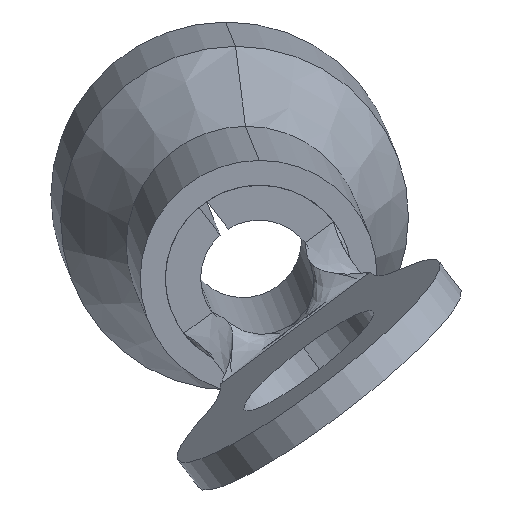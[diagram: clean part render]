
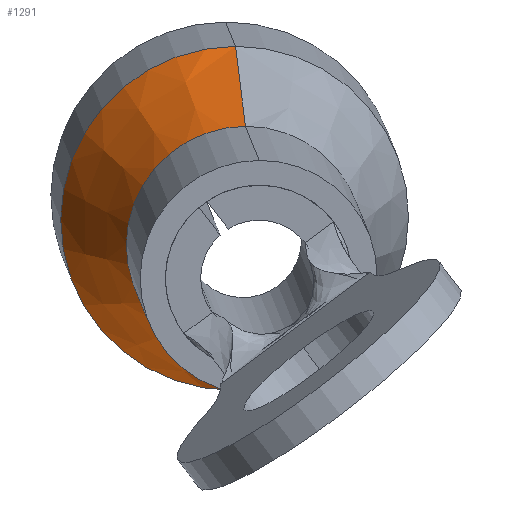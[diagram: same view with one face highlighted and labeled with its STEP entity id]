
A CAD part, front view. The second image highlights one B-rep face of the part: STEP entity #1291.
In plain terms, the highlighted conical face has half-angle 19.537 degrees and reference radius 2.35 mm.
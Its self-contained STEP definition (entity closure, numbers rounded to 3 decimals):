
#62 = ORIENTED_EDGE ( 'NONE', *, *, #351, .T. ) ;
#121 = CARTESIAN_POINT ( 'NONE',  ( 0., 7.3, -3.45 ) ) ;
#179 = EDGE_CURVE ( 'NONE', #1493, #243, #1385, .T. ) ;
#185 = AXIS2_PLACEMENT_3D ( 'NONE', #742, #1602, #868 ) ;
#232 = FACE_OUTER_BOUND ( 'NONE', #1384, .T. ) ;
#243 = VERTEX_POINT ( 'NONE', #484 ) ;
#248 = VECTOR ( 'NONE', #1576, 1000. ) ;
#312 = EDGE_CURVE ( 'NONE', #1493, #863, #999, .T. ) ;
#351 = EDGE_CURVE ( 'NONE', #863, #1097, #584, .T. ) ;
#454 = CARTESIAN_POINT ( 'NONE',  ( 0., 4.2, 0. ) ) ;
#455 = CARTESIAN_POINT ( 'NONE',  ( 0., 4.2, 2.35 ) ) ;
#484 = CARTESIAN_POINT ( 'NONE',  ( 0., 4.2, -2.35 ) ) ;
#525 = CARTESIAN_POINT ( 'NONE',  ( 0., 7.3, 0. ) ) ;
#555 = ORIENTED_EDGE ( 'NONE', *, *, #179, .F. ) ;
#584 = CIRCLE ( 'NONE', #886, 3.45 ) ;
#660 = DIRECTION ( 'NONE',  ( 0., 0., -1. ) ) ;
#677 = AXIS2_PLACEMENT_3D ( 'NONE', #454, #1342, #837 ) ;
#742 = CARTESIAN_POINT ( 'NONE',  ( 0., 4.2, 0. ) ) ;
#807 = DIRECTION ( 'NONE',  ( 0., 0.942, -0.334 ) ) ;
#837 = DIRECTION ( 'NONE',  ( 0., 0., 1. ) ) ;
#863 = VERTEX_POINT ( 'NONE', #1315 ) ;
#868 = DIRECTION ( 'NONE',  ( 0., 0., -1. ) ) ;
#886 = AXIS2_PLACEMENT_3D ( 'NONE', #525, #1409, #660 ) ;
#982 = LINE ( 'NONE', #1304, #1303 ) ;
#999 = LINE ( 'NONE', #455, #248 ) ;
#1097 = VERTEX_POINT ( 'NONE', #121 ) ;
#1128 = CARTESIAN_POINT ( 'NONE',  ( 0., 4.2, 2.35 ) ) ;
#1199 = EDGE_CURVE ( 'NONE', #243, #1097, #982, .T. ) ;
#1291 = ADVANCED_FACE ( 'NONE', ( #232 ), #1470, .T. ) ;
#1303 = VECTOR ( 'NONE', #807, 1000. ) ;
#1304 = CARTESIAN_POINT ( 'NONE',  ( 0., 4.2, -2.35 ) ) ;
#1315 = CARTESIAN_POINT ( 'NONE',  ( 0., 7.3, 3.45 ) ) ;
#1342 = DIRECTION ( 'NONE',  ( 0., 1., 0. ) ) ;
#1384 = EDGE_LOOP ( 'NONE', ( #1428, #555, #1446, #62 ) ) ;
#1385 = CIRCLE ( 'NONE', #185, 2.35 ) ;
#1409 = DIRECTION ( 'NONE',  ( 0., -1., 0. ) ) ;
#1428 = ORIENTED_EDGE ( 'NONE', *, *, #1199, .F. ) ;
#1446 = ORIENTED_EDGE ( 'NONE', *, *, #312, .T. ) ;
#1470 = CONICAL_SURFACE ( 'NONE', #677, 2.35, 0.341 ) ;
#1493 = VERTEX_POINT ( 'NONE', #1128 ) ;
#1576 = DIRECTION ( 'NONE',  ( 0., 0.942, 0.334 ) ) ;
#1602 = DIRECTION ( 'NONE',  ( 0., -1., 0. ) ) ;
